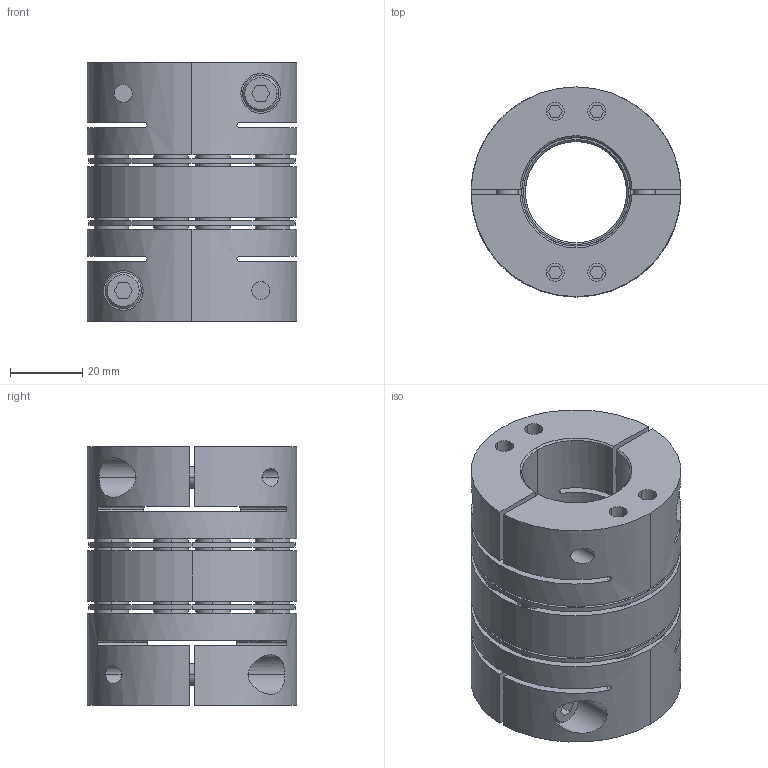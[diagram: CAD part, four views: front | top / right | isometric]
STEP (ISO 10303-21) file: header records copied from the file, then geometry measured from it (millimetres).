
FILE_DESCRIPTION((''),'2;1');
FILE_NAME('TAD-58C-28×30.stp','2022-11-13T22:10:39',(''),(''),'AutoCAD STEP 2000i','AutoCAD 2000i',', , ');
FILE_SCHEMA(('CONFIG_CONTROL_DESIGN'));
Length unit declared in the file: millimetre
Products named in the file (8): TAD-58C-22×22; 忣兜1; TA58C-22-2; CAP-M6×20; TA58C-22; TA58C-12-2; TA58C-12; TAS-58C-ITA
Assembly tree (10 placements, depth 3):
  TAD-58C-22×22
    忣兜1
    TA58C-22-2
      CAP-M6×20
    TA58C-22
      CAP-M6×20
    TA58C-12-2
      CAP-M6×20
    TA58C-12
      CAP-M6×20
    TAS-58C-ITA
Bounding box: 58 x 58 x 71.5 mm (x, y, z)
Volume: 118114.1 mm3; surface area: 53591.1 mm2
Topology: 1 solids, 5 shells, 568 faces, 1370 edges, 954 vertices
Faces by surface type: plane 252, cylinder 228, cone 72, bspline 16
Entity records: 18721 total; most frequent: CARTESIAN_POINT 4821, DIRECTION 3022, ORIENTED_EDGE 2640, EDGE_CURVE 1320, AXIS2_PLACEMENT_3D 1145, VERTEX_POINT 860, VECTOR 732, LINE 732
